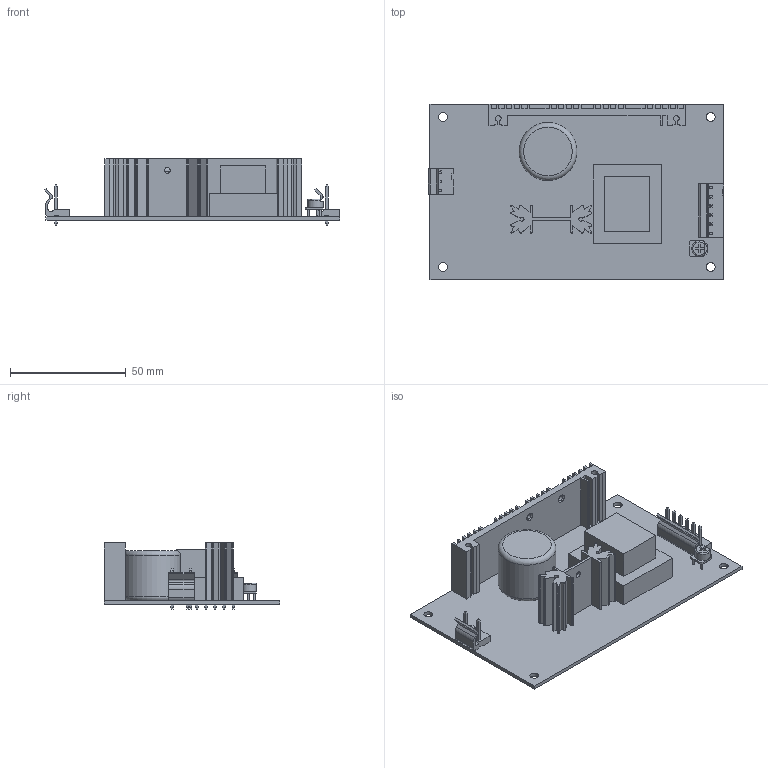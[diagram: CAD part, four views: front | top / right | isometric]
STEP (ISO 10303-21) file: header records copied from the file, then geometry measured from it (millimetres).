
FILE_DESCRIPTION((''),'2;1');
FILE_NAME('W:\mechanical\機構工程圖\3D圖檔\3D Outline-2020\已完成待審核\PD-45.stp','2020-07-09T10:01:47',('shirley'),(''),'Autodesk Inventor 2010','Autodesk Inventor 2010','');
FILE_SCHEMA(('AUTOMOTIVE_DESIGN { 1 0 10303 214 1 1 1 1 }'));
Length unit declared in the file: millimetre
Products named in the file (9): PD-45; PCB; 5273-03N2; 5273-06; HS1; C5; HS2; T1; VR-1
Assembly tree (8 placements, depth 2):
  PD-45
    PCB
    5273-03N2
    5273-06
    HS1
    C5
    HS2
    T1
    VR-1
Bounding box: 127.75 x 76 x 28.6 mm (x, y, z)
Volume: 56459.5 mm3; surface area: 42165.7 mm2
Topology: 8 solids, 8 shells, 473 faces, 1391 edges, 1102 vertices
Faces by surface type: plane 402, cylinder 66, torus 5
Full cylindrical faces by diameter (mm): 0.8 x3, 2.5 x3, 3.8 x4, 6.747 x1, 25 x1
Entity records: 15984 total; most frequent: CARTESIAN_POINT 2837, DIRECTION 2506, ORIENTED_EDGE 2440, EDGE_CURVE 1220, VECTOR 1218, LINE 1218, VERTEX_POINT 801, AXIS2_PLACEMENT_3D 644
